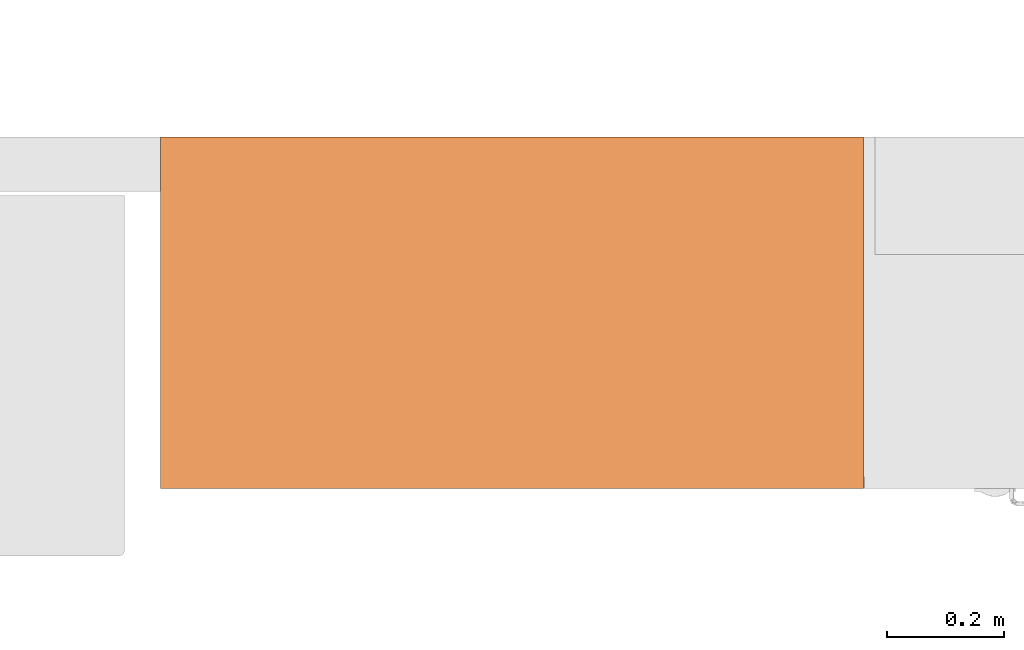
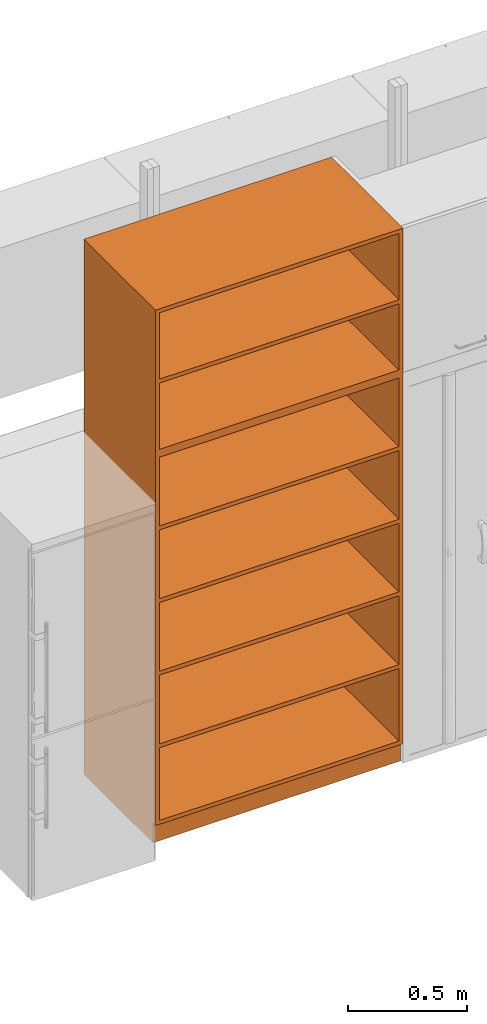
# One storey, part 25 of 32: 1 proxy.
"""IFC2X3 building model written with IfcOpenShell, lengths in metres."""

import ifcopenshell
import ifcopenshell.guid

model = None  # the IFC model being written
_history = None  # IfcOwnerHistory: only IFC2X3 demands one
_inside = {}  # id of a spatial element -> (the spatial element, [elements in it])
_under = {}  # id of a project, library or spatial element -> (it, [spatial elements below it])
_declared = {}  # id of a project -> (the project, [libraries it declares])
_typed = {}  # id of a type object -> (the type object, [elements of that type])
_made_of = {}  # id of a material, layer set ... -> (it, [elements and type objects made of it])


def new_model(schema):
    """Start an empty IFC model of exactly this schema.

    Asked for "IFC4X3", IfcOpenShell would pick the latest addendum, in which some entities
    have other attributes; the version numbers below select the first issue.
    IFC2X3 requires an IfcOwnerHistory on every rooted entity: one is made here for all.
    """
    global model, _history
    if schema == "IFC4X3":
        model = ifcopenshell.file(schema_version=(4, 3, 0, 0))
    else:
        model = ifcopenshell.file(schema=schema)
    _inside.clear()
    _under.clear()
    _declared.clear()
    _typed.clear()
    _made_of.clear()
    _history = None
    if model.schema == "IFC2X3":
        org = make("IfcOrganization", Name="unknown")
        user = make(
            "IfcPersonAndOrganization",
            ThePerson=make("IfcPerson", FamilyName="unknown"),
            TheOrganization=org,
        )
        app = make(
            "IfcApplication",
            ApplicationDeveloper=org,
            Version="unknown",
            ApplicationFullName="unknown",
            ApplicationIdentifier="unknown",
        )
        _history = make(
            "IfcOwnerHistory",
            OwningUser=user,
            OwningApplication=app,
            ChangeAction="ADDED",
            CreationDate=0,
        )
    return model


def make(cls, **values):
    """One entity of the class cls with the attributes given. An attribute that is None is left unset."""
    return model.create_entity(
        cls, **{name: value for name, value in values.items() if value is not None}
    )


def entity(cls, *values):
    """Any entity or typed value of the class cls, its attributes in the order of the schema. None: left unset."""
    e = model.create_entity(cls)
    for i, value in enumerate(values):
        if value is not None:
            e[i] = value
    return e


def rooted(cls, **values):
    """An entity with a GlobalId (a new one), such as an element, a storey or a relation."""
    return make(cls, GlobalId=ifcopenshell.guid.new(), OwnerHistory=_history, **values)


def si_unit(unit_type, name, prefix=None):
    """IfcSIUnit, for example si_unit("LENGTHUNIT", "METRE", prefix="MILLI")."""
    return make("IfcSIUnit", UnitType=unit_type, Prefix=prefix, Name=name)


def converted_unit(unit_type, name, factor, base, dimensions=None, offset=None):
    """IfcConversionBasedUnit, such as the inch: factor (a typed value) times the base unit."""
    return make(
        "IfcConversionBasedUnit"
        if offset is None
        else "IfcConversionBasedUnitWithOffset",
        ConversionOffset=offset,
        Dimensions=None
        if dimensions is None
        else entity("IfcDimensionalExponents", *dimensions),
        UnitType=unit_type,
        Name=name,
        ConversionFactor=make(
            "IfcMeasureWithUnit", ValueComponent=factor, UnitComponent=base
        ),
    )


def derived_unit(unit_type, elements):
    """IfcDerivedUnit: a product of units, each with its exponent."""
    return make(
        "IfcDerivedUnit",
        Elements=[
            make("IfcDerivedUnitElement", Unit=unit, Exponent=power)
            for unit, power in elements
        ],
        UnitType=unit_type,
    )


def assignment(units):
    """IfcUnitAssignment: the units of a project."""
    return None if units is None else make("IfcUnitAssignment", Units=units)


def point(xyz):
    """IfcCartesianPoint."""
    return None if xyz is None else make("IfcCartesianPoint", Coordinates=xyz)


def direction(xyz):
    """IfcDirection."""
    return None if xyz is None else make("IfcDirection", DirectionRatios=xyz)


def frame(location, z_axis=None, x_axis=None):
    """IfcAxis2Placement3D, a coordinate frame: its origin and axes. An axis left out is left unset."""
    return make(
        "IfcAxis2Placement3D",
        Location=point(location),
        Axis=direction(z_axis),
        RefDirection=direction(x_axis),
    )


def origin():
    """The frame at (0, 0, 0) with its axes left unset."""
    return frame((0.0, 0.0, 0.0))


def place(relative_to, where):
    """IfcLocalPlacement: puts the frame where relative to a parent placement (None: the world)."""
    return make(
        "IfcLocalPlacement", PlacementRelTo=relative_to, RelativePlacement=where
    )


def context(
    kind, dimensions, precision=None, world=None, true_north=None, identifier=None
):
    """IfcGeometricRepresentationContext, for example the 3D "Model" context."""
    return make(
        "IfcGeometricRepresentationContext",
        ContextIdentifier=identifier,
        ContextType=kind,
        CoordinateSpaceDimension=dimensions,
        Precision=precision,
        WorldCoordinateSystem=world,
        TrueNorth=true_north,
    )


def subcontext(parent, identifier, kind, view, scale=None):
    """IfcGeometricRepresentationSubContext, for example "Body" below "Model"."""
    return make(
        "IfcGeometricRepresentationSubContext",
        ContextIdentifier=identifier,
        ContextType=kind,
        ParentContext=parent,
        TargetScale=scale,
        TargetView=view,
    )


def project(units=None, contexts=None):
    """IfcProject with its units and contexts."""
    return rooted(
        "IfcProject",
        Name="project",
        RepresentationContexts=contexts,
        UnitsInContext=assignment(units),
    )


def spatial(cls, under=None, at=None, **own):
    """A site, building, storey or space (cls), placed at a placement, below another one or the project."""
    s = rooted(cls, ObjectPlacement=at, **own)
    if under is not None:
        _under.setdefault(under.id(), (under, []))[1].append(s)
    return s


def faces_of(points, faces, orient=None, outer=None):
    """IfcFace entities. A face is a list of loops; a loop is a list of indices into points, from 0.

    orient and outer hold one flag for each loop. By default every Orientation is true, the
    first loop of a face is its IfcFaceOuterBound and the others are IfcFaceBound.
    """
    made = []
    for i, loops in enumerate(faces):
        bounds = []
        for j, loop in enumerate(loops):
            is_outer = j == 0 if outer is None else outer[i][j]
            bounds.append(
                make(
                    "IfcFaceOuterBound" if is_outer else "IfcFaceBound",
                    Bound=make("IfcPolyLoop", Polygon=[points[k] for k in loop]),
                    Orientation=True if orient is None else orient[i][j],
                )
            )
        made.append(make("IfcFace", Bounds=bounds))
    return made


def faceted_brep(points, faces, orient=None, outer=None, voids=None):
    """IfcFacetedBrep: a solid bounded by flat faces; with voids (closed shells), ...WithVoids."""
    shared = [point(p) for p in points]
    hull = make("IfcClosedShell", CfsFaces=faces_of(shared, faces, orient, outer))
    if voids is None:
        return make("IfcFacetedBrep", Outer=hull)
    return make(
        "IfcFacetedBrepWithVoids",
        Outer=hull,
        Voids=[
            make(cls, CfsFaces=faces_of(shared, fs, o, b)) for cls, fs, o, b in voids
        ],
    )


def shape(context_of_items, identifier, shape_type, items):
    """IfcShapeRepresentation: the items that make up one representation, for example the "Body"."""
    return make(
        "IfcShapeRepresentation",
        ContextOfItems=context_of_items,
        RepresentationIdentifier=identifier,
        RepresentationType=shape_type,
        Items=items,
    )


def source(mapping_origin, context_of_items, identifier, shape_type, items):
    """IfcRepresentationMap: a shape defined once, which mapped items show again and again."""
    return make(
        "IfcRepresentationMap",
        MappingOrigin=mapping_origin,
        MappedRepresentation=shape(context_of_items, identifier, shape_type, items),
    )


def transform(
    local_origin,
    x_axis=None,
    y_axis=None,
    z_axis=None,
    scale=None,
    scale2=None,
    scale3=None,
    uniform=True,
):
    """IfcCartesianTransformationOperator3D, or its non-uniform kind. x_axis, y_axis, z_axis: its Axis1, 2, 3."""
    if uniform:
        return make(
            "IfcCartesianTransformationOperator3D",
            Axis1=direction(x_axis),
            Axis2=direction(y_axis),
            LocalOrigin=point(local_origin),
            Scale=scale,
            Axis3=direction(z_axis),
        )
    return make(
        "IfcCartesianTransformationOperator3DnonUniform",
        Axis1=direction(x_axis),
        Axis2=direction(y_axis),
        LocalOrigin=point(local_origin),
        Scale=scale,
        Axis3=direction(z_axis),
        Scale2=scale2,
        Scale3=scale3,
    )


def mapped(mapping_source, mapping_target):
    """IfcMappedItem: shows the shape of a source again, moved by a transform."""
    return make(
        "IfcMappedItem", MappingSource=mapping_source, MappingTarget=mapping_target
    )


def material(Name=None, Category=None):
    """IfcMaterial."""
    return make("IfcMaterial", Name=Name, Category=Category)


def material_list(materials):
    """IfcMaterialList."""
    return make("IfcMaterialList", Materials=materials)


def made_of(thing, what):
    """Note that an element or type object is made of a material, layer set ...; save() writes the relation."""
    if what is not None:
        _made_of.setdefault(what.id(), (what, []))[1].append(thing)
    return thing


def type_object(cls, material=None, **own):
    """A type object (cls), such as IfcWallType, which elements share."""
    return made_of(rooted(cls, **own), material)


def type_shapes(of_type, sources):
    """Give a type object the sources (RepresentationMaps) that its elements show as mapped items."""
    of_type.RepresentationMaps = sources


def element(
    cls,
    number,
    at=None,
    inside=None,
    cuts=None,
    type_object=None,
    material=None,
    context=None,
    identifier="Body",
    shape_type=None,
    held_by="IfcProductDefinitionShape",
    body=None,
    shapes=None,
    **own,
):
    """One element of the class cls, such as IfcWall. Its Tag is "e" and its number.

    at: its placement. inside: the storey or other place that contains it. cuts: it is an
    opening in that element (IfcRelVoidsElement). A single representation is given by context,
    identifier, shape_type and body (its items); several are given by shapes. held_by: the class
    of the entity that holds the representations. save() writes the other relations.
    """
    e = rooted(cls, Tag="e%d" % number, ObjectPlacement=at, **own)
    if body is not None:
        shapes = [shape(context, identifier, shape_type, body)]
    if shapes is not None:
        e.Representation = make(held_by, Representations=shapes)
    if inside is not None:
        _inside.setdefault(inside.id(), (inside, []))[1].append(e)
    if cuts is not None:
        rooted(
            "IfcRelVoidsElement", RelatingBuildingElement=cuts, RelatedOpeningElement=e
        )
    if type_object is not None:
        _typed.setdefault(type_object.id(), (type_object, []))[1].append(e)
    return made_of(e, material)


def aggregate(whole, parts):
    """IfcRelAggregates: a whole, such as a stair, and the parts it consists of."""
    return rooted("IfcRelAggregates", RelatingObject=whole, RelatedObjects=parts)


def save(model, path):
    """Write the relations noted so far, then the file.

    IfcRelAggregates (storeys below a building ...), IfcRelContainedInSpatialStructure (elements
    in a storey), IfcRelDefinesByType, IfcRelAssociatesMaterial and IfcRelDeclares: one each for
    every whole, place, type object, material and project.
    """
    for whole, parts in _under.values():
        aggregate(whole, parts)
    for where, things in _inside.values():
        rooted(
            "IfcRelContainedInSpatialStructure",
            RelatedElements=things,
            RelatingStructure=where,
        )
    for kind, things in _typed.values():
        rooted("IfcRelDefinesByType", RelatedObjects=things, RelatingType=kind)
    for what, things in _made_of.values():
        rooted("IfcRelAssociatesMaterial", RelatedObjects=things, RelatingMaterial=what)
    for by, libraries in _declared.values():
        rooted("IfcRelDeclares", RelatingContext=by, RelatedDefinitions=libraries)
    model.write(path)


model = new_model("IFC2X3")

# Units and contexts
model_context = context("Model", 3, precision=1e-05, world=origin(), true_north=direction((6.12303176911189e-17, 1.0)))
body_context = subcontext(model_context, "Body", "Model", "MODEL_VIEW")
ifc_project = project(units=[si_unit("LENGTHUNIT", "METRE"), si_unit("AREAUNIT", "SQUARE_METRE"), si_unit("VOLUMEUNIT", "CUBIC_METRE"), converted_unit("PLANEANGLEUNIT", "DEGREE", entity("IfcRatioMeasure", 0.0174532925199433), si_unit("PLANEANGLEUNIT", "RADIAN"), dimensions=[0, 0, 0, 0, 0, 0, 0]), si_unit("MASSUNIT", "GRAM", prefix="KILO"), derived_unit("MASSDENSITYUNIT", [(si_unit("MASSUNIT", "GRAM", prefix="KILO"), 1), (si_unit("LENGTHUNIT", "METRE"), -3)]), derived_unit("MOMENTOFINERTIAUNIT", [(si_unit("LENGTHUNIT", "METRE"), 4)]), si_unit("TIMEUNIT", "SECOND"), si_unit("FREQUENCYUNIT", "HERTZ"), si_unit("THERMODYNAMICTEMPERATUREUNIT", "DEGREE_CELSIUS"), derived_unit("THERMALTRANSMITTANCEUNIT", [(si_unit("MASSUNIT", "GRAM", prefix="KILO"), 1), (si_unit("THERMODYNAMICTEMPERATUREUNIT", "KELVIN"), -1), (si_unit("TIMEUNIT", "SECOND"), -3)]), derived_unit("VOLUMETRICFLOWRATEUNIT", [(si_unit("LENGTHUNIT", "METRE"), 3), (si_unit("TIMEUNIT", "SECOND"), -1)]), si_unit("ELECTRICCURRENTUNIT", "AMPERE"), si_unit("ELECTRICVOLTAGEUNIT", "VOLT"), si_unit("POWERUNIT", "WATT"), si_unit("FORCEUNIT", "NEWTON", prefix="KILO"), si_unit("ILLUMINANCEUNIT", "LUX"), si_unit("LUMINOUSFLUXUNIT", "LUMEN"), si_unit("LUMINOUSINTENSITYUNIT", "CANDELA"), derived_unit("USERDEFINED", [(si_unit("MASSUNIT", "GRAM", prefix="KILO"), -1), (si_unit("LENGTHUNIT", "METRE"), -2), (si_unit("TIMEUNIT", "SECOND"), 3), (si_unit("LUMINOUSFLUXUNIT", "LUMEN"), 1)]), derived_unit("LINEARVELOCITYUNIT", [(si_unit("LENGTHUNIT", "METRE"), 1), (si_unit("TIMEUNIT", "SECOND"), -1)]), si_unit("PRESSUREUNIT", "PASCAL"), derived_unit("USERDEFINED", [(si_unit("LENGTHUNIT", "METRE"), -2), (si_unit("MASSUNIT", "GRAM", prefix="KILO"), 1), (si_unit("TIMEUNIT", "SECOND"), -2)]), derived_unit("LINEARFORCEUNIT", [(si_unit("MASSUNIT", "GRAM", prefix="KILO"), 1), (si_unit("LENGTHUNIT", "METRE"), 1), (si_unit("TIMEUNIT", "SECOND"), -2), (si_unit("LENGTHUNIT", "METRE"), -1)]), derived_unit("PLANARFORCEUNIT", [(si_unit("MASSUNIT", "GRAM", prefix="KILO"), 1), (si_unit("LENGTHUNIT", "METRE"), 1), (si_unit("TIMEUNIT", "SECOND"), -2), (si_unit("LENGTHUNIT", "METRE"), -2)])], contexts=[model_context])

# Site, building, storey
site_placement = place(None, origin())
site = spatial("IfcSite", under=ifc_project, at=site_placement, Name="Default", CompositionType="ELEMENT")
building_placement = place(site_placement, origin())
building = spatial("IfcBuilding", under=site, at=building_placement, CompositionType="ELEMENT")
storey_placement = place(building_placement, origin())
storey = spatial("IfcBuildingStorey", under=building, at=storey_placement, Name="00 EG", CompositionType="ELEMENT", Elevation=0.0)

# Proxy
ifc_material_1 = material(Name="dh_Weiss")
ifc_material_2 = material(Name="dh_Grau")
ifc_material_list_1 = material_list([ifc_material_1, ifc_material_2])
ifc_material_list_2 = material_list([ifc_material_1, ifc_material_2])
building_element_proxy_type = type_object("IfcBuildingElementProxyType", Name="dh_Laborhochregal:1200x600x2000", PredefinedType="NOTDEFINED", material=ifc_material_list_2)
shared_shape = source(origin(), body_context, "Body", "Brep", [
    faceted_brep([(0.58, 0.279999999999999, 2.38), (-0.579999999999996, 0.279999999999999, 2.38), (-0.579999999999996, -0.3, 2.38), (0.58, -0.3, 2.38), (0.58, 0.279999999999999, 2.36), (0.58, -0.3, 2.36), (-0.579999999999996, -0.3, 2.36), (-0.579999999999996, 0.279999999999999, 2.36)], [[[0, 1, 2, 3]], [[4, 5, 6, 7]], [[1, 0, 4, 7]], [[2, 1, 7, 6]], [[3, 2, 6, 5]], [[0, 3, 5, 4]]]),
    faceted_brep([(0.6, -0.3, 2.74), (-0.6, -0.3, 2.74), (-0.6, -0.3, 2.0), (0.6, -0.3, 2.0), (-0.579999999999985, -0.3, 2.72), (0.579999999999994, -0.3, 2.72), (0.579999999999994, -0.3, 2.02), (-0.579999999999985, -0.3, 2.02), (0.6, 0.3, 2.0), (-0.6, 0.3, 2.0), (-0.6, 0.3, 2.74), (0.6, 0.3, 2.74), (0.579999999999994, 0.279999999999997, 2.02), (-0.579999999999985, 0.279999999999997, 2.02), (-0.579999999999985, 0.279999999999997, 2.72), (0.579999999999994, 0.279999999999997, 2.72)], [[[0, 1, 2, 3], [4, 5, 6, 7]], [[8, 9, 10, 11]], [[0, 3, 8, 11]], [[7, 6, 12, 13]], [[2, 1, 10, 9]], [[3, 2, 9, 8]], [[1, 0, 11, 10]], [[5, 4, 14, 15]], [[4, 7, 13, 14]], [[14, 13, 12, 15]], [[15, 12, 6, 5]]]),
    faceted_brep([(0.58, 0.279999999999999, 1.628), (-0.579999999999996, 0.279999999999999, 1.628), (-0.579999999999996, -0.3, 1.628), (0.58, -0.3, 1.628), (0.58, 0.279999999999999, 1.608), (0.58, -0.3, 1.608), (-0.579999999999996, -0.3, 1.608), (-0.579999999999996, 0.279999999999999, 1.608)], [[[0, 1, 2, 3]], [[4, 5, 6, 7]], [[1, 0, 4, 7]], [[2, 1, 7, 6]], [[3, 2, 6, 5]], [[0, 3, 5, 4]]]),
    faceted_brep([(0.58, 0.279999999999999, 1.256), (-0.579999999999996, 0.279999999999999, 1.256), (-0.579999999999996, -0.3, 1.256), (0.58, -0.3, 1.256), (0.58, 0.279999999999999, 1.236), (0.58, -0.3, 1.236), (-0.579999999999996, -0.3, 1.236), (-0.579999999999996, 0.279999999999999, 1.236)], [[[0, 1, 2, 3]], [[4, 5, 6, 7]], [[1, 0, 4, 7]], [[2, 1, 7, 6]], [[3, 2, 6, 5]], [[0, 3, 5, 4]]]),
    faceted_brep([(0.58, 0.279999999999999, 0.511999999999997), (-0.579999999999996, 0.279999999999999, 0.512), (-0.579999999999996, -0.3, 0.512), (0.58, -0.3, 0.511999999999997), (0.58, 0.279999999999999, 0.491999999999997), (0.58, -0.3, 0.491999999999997), (-0.579999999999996, -0.3, 0.492), (-0.579999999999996, 0.279999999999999, 0.492)], [[[0, 1, 2, 3]], [[4, 5, 6, 7]], [[1, 0, 4, 7]], [[2, 1, 7, 6]], [[3, 2, 6, 5]], [[0, 3, 5, 4]]]),
    faceted_brep([(0.58, 0.279999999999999, 0.883999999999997), (-0.579999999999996, 0.279999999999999, 0.884), (-0.579999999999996, -0.3, 0.884), (0.58, -0.3, 0.883999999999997), (0.58, 0.279999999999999, 0.863999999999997), (0.58, -0.3, 0.863999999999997), (-0.579999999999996, -0.3, 0.864), (-0.579999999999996, 0.279999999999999, 0.864)], [[[0, 1, 2, 3]], [[4, 5, 6, 7]], [[1, 0, 4, 7]], [[2, 1, 7, 6]], [[3, 2, 6, 5]], [[0, 3, 5, 4]]]),
    faceted_brep([(0.6, -0.3, 2.0), (-0.6, -0.3, 2.0), (-0.6, -0.3, 0.0999999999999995), (0.6, -0.3, 0.0999999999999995), (-0.579999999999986, -0.3, 1.98), (0.580000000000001, -0.3, 1.98), (0.580000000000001, -0.3, 0.12), (-0.579999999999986, -0.3, 0.12), (0.6, 0.3, 0.0999999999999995), (-0.6, 0.3, 0.0999999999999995), (-0.6, 0.3, 2.0), (0.6, 0.3, 2.0), (0.580000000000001, 0.279999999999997, 0.12), (-0.579999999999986, 0.279999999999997, 0.12), (-0.579999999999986, 0.279999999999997, 1.98), (0.580000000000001, 0.279999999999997, 1.98)], [[[0, 1, 2, 3], [4, 5, 6, 7]], [[8, 9, 10, 11]], [[0, 3, 8, 11]], [[7, 6, 12, 13]], [[2, 1, 10, 9]], [[3, 2, 9, 8]], [[1, 0, 11, 10]], [[5, 4, 14, 15]], [[4, 7, 13, 14]], [[14, 13, 12, 15]], [[15, 12, 6, 5]]]),
    faceted_brep([(0.6, 0.3, 0.0999999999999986), (-0.6, 0.3, 0.0999999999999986), (-0.6, -0.280000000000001, 0.0999999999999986), (0.6, -0.280000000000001, 0.0999999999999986), (0.6, 0.3, 0.0), (0.6, -0.280000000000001, 0.0), (-0.6, -0.280000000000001, 0.0), (-0.6, 0.3, 0.0)], [[[0, 1, 2, 3]], [[4, 5, 6, 7]], [[1, 0, 4, 7]], [[2, 1, 7, 6]], [[3, 2, 6, 5]], [[0, 3, 5, 4]]]),
])
type_shapes(building_element_proxy_type, [shared_shape])
proxy_placement = place(storey_placement, frame((13.2360000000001, 9.54399999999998, 0.0)))
element("IfcBuildingElementProxy", 1, at=proxy_placement, inside=storey, type_object=building_element_proxy_type, material=ifc_material_list_1, Name="dh_Laborhochregal:1200x600x2000", ObjectType="dh_Laborhochregal:1200x600x2000", context=body_context, shape_type="MappedRepresentation", body=[
    mapped(shared_shape, transform((0.0, 0.0, 0.0), scale=1.0)),
])

save(model, "model.ifc")
